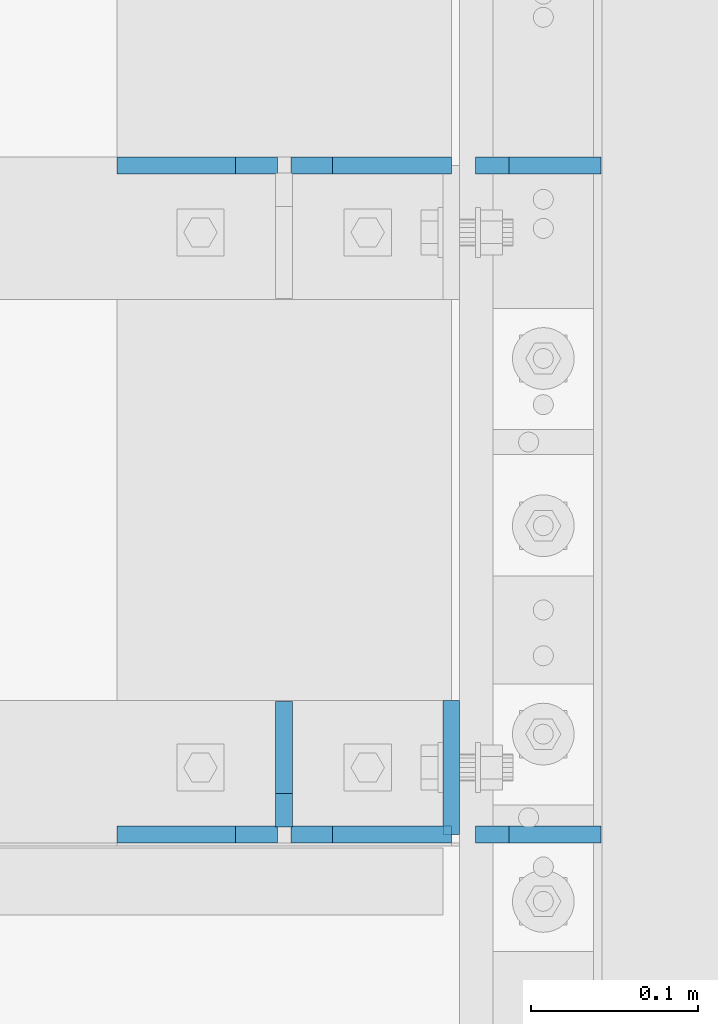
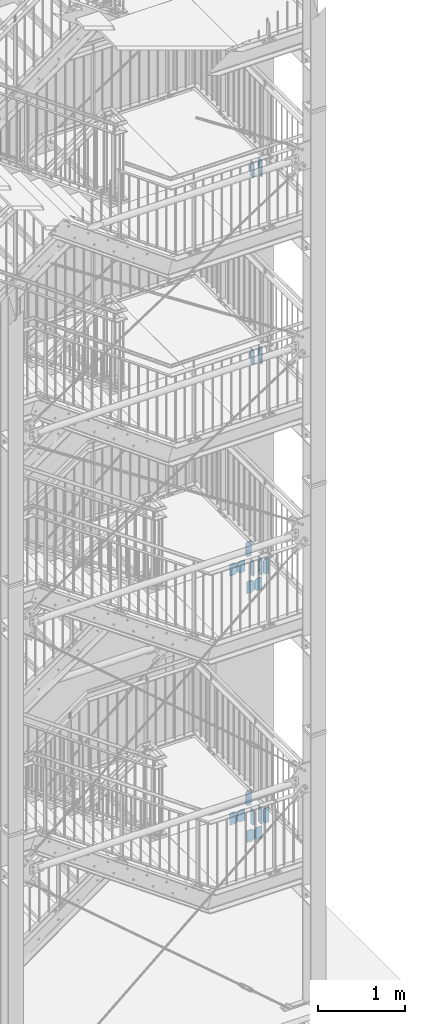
# One storey, part 202 of 825: 20 plates, 48 openings.
"""IFC2X3 building model written with IfcOpenShell, lengths in millimetres."""

from ifc_helpers import new_model, entity, si_unit, converted_unit, frame, frame_2d, origin, origin_with_axes, origin_2d_with_axis, place, context, project, spatial, polyline, circle, outline, extrude, material, layer, layer_set, element, save


model = new_model("IFC2X3")

# Units and contexts
model_context = context("Model", 3, precision=1e-09, world=origin_with_axes())
ifc_project = project(units=[si_unit("LENGTHUNIT", "METRE", prefix="MILLI"), si_unit("AREAUNIT", "SQUARE_METRE"), si_unit("VOLUMEUNIT", "CUBIC_METRE"), converted_unit("PLANEANGLEUNIT", "DEGREE", entity("IfcPlaneAngleMeasure", 0.01745329), si_unit("PLANEANGLEUNIT", "RADIAN"), dimensions=[0, 0, 0, 0, 0, 0, 0])], contexts=[model_context])

# Site, building, storey
site_placement = place(None, origin_with_axes())
site = spatial("IfcSite", under=ifc_project, at=site_placement, Name="Cnopf'sche Kinderklinik", CompositionType="ELEMENT")
building_placement = place(site_placement, origin_with_axes())
building = spatial("IfcBuilding", under=site, at=building_placement, Name="Struktur 1", CompositionType="ELEMENT")
storey_placement = place(building_placement, origin_with_axes())
storey = spatial("IfcBuildingStorey", under=building, at=storey_placement, Name="Default Storey", CompositionType="ELEMENT", Elevation=0.0)

# Plate, openings
ifc_material = material(Name="S235JR")
ifc_layer = layer(ifc_material, 10.0)
ifc_layer_set = layer_set([ifc_layer], Name="S235JR")
plate_1_placement = place(None, frame((8862.713402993, 5736.736971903, 5256.3947367), z_axis=(0.0, 1.0, 0.0), x_axis=(-1.0, 0.0, 0.0)))
plate_1 = element("IfcPlate", 1, at=plate_1_placement, inside=storey, material=ifc_layer_set, Name="Stiffener#1", ObjectType="Stiffener#1", context=model_context, shape_type="SweptSolid", body=[
    extrude(outline(polyline([(0.0, 0.0), (96.0, 0.0), (96.0, 167.0), (0.0, 167.0), (0.0, 0.0)])), origin_with_axes(), (0.0, 0.0, 1.0), 10.0),
])
opening_1_placement = place(plate_1_placement, frame((0.0, 0.0, -0.01), z_axis=(0.0, 0.0, 1.0), x_axis=(1.0, 0.0, 0.0)))
element("IfcOpeningElement", 2, at=opening_1_placement, cuts=plate_1, ObjectType="Opening", context=model_context, shape_type="SweptSolid", body=[
    extrude(outline(polyline([(0.0, 167.0), (0.0, 142.0), (25.0, 167.0), (0.0, 167.0)])), origin(), (0.0, 0.0, 1.0), 10.02),
])
opening_2_placement = place(plate_1_placement, frame((0.0, 0.0, -0.01), z_axis=(0.0, 0.0, 1.0), x_axis=(1.0, 0.0, 0.0)))
element("IfcOpeningElement", 3, at=opening_2_placement, cuts=plate_1, ObjectType="Opening", context=model_context, shape_type="SweptSolid", body=[
    extrude(outline(polyline([(0.0, 0.0), (25.0, 0.0), (0.0, 25.0), (0.0, 0.0)])), origin(), (0.0, 0.0, 1.0), 10.02),
])

plate_2_placement = place(None, frame((8966.713402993, 5736.736971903, 5256.3947367), z_axis=(0.0, 1.0, 0.0), x_axis=(-1.0, 0.0, 0.0)))
plate_2 = element("IfcPlate", 4, at=plate_2_placement, inside=storey, material=ifc_layer_set, Name="Stiffener#0", ObjectType="Stiffener#0", context=model_context, shape_type="SweptSolid", body=[
    extrude(outline(polyline([(0.0, 0.0), (96.0, 0.0), (96.0, 167.0), (0.0, 167.0), (0.0, 0.0)])), origin_with_axes(), (0.0, 0.0, 1.0), 10.0),
])
opening_3_placement = place(plate_2_placement, frame((0.0, 0.0, -0.01), z_axis=(0.0, 0.0, 1.0), x_axis=(1.0, 0.0, 0.0)))
element("IfcOpeningElement", 5, at=opening_3_placement, cuts=plate_2, ObjectType="Opening", context=model_context, shape_type="SweptSolid", body=[
    extrude(outline(polyline([(96.0, 167.0), (71.0, 167.0), (96.0, 142.0), (96.0, 167.0)])), origin(), (0.0, 0.0, 1.0), 10.02),
])
opening_4_placement = place(plate_2_placement, frame((0.0, 0.0, -0.01), z_axis=(0.0, 0.0, 1.0), x_axis=(1.0, 0.0, 0.0)))
element("IfcOpeningElement", 6, at=opening_4_placement, cuts=plate_2, ObjectType="Opening", context=model_context, shape_type="SweptSolid", body=[
    extrude(outline(polyline([(96.0, 0.0), (96.0, 25.0), (71.0, 0.0), (96.0, 0.0)])), origin(), (0.0, 0.0, 1.0), 10.02),
])

plate_3_placement = place(None, frame((8981.213402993, 5736.736971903, 5657.749898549), z_axis=(0.0, 1.0, 0.0), x_axis=(0.996815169, 0.0, 0.079746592)))
plate_3 = element("IfcPlate", 7, at=plate_3_placement, inside=storey, material=ifc_layer_set, Name="Stiffener#1", ObjectType="Stiffener#1", context=model_context, shape_type="SweptSolid", body=[
    extrude(outline(polyline([(0.0, 0.0), (75.239625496, 0.0), (57.877952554, 217.017159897), (-16.404697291, 205.05517107), (0.0, 0.0)])), origin_with_axes(), (0.0, 0.0, 1.0), 10.0),
])
opening_5_placement = place(plate_3_placement, frame((0.0, 0.0, -0.01), z_axis=(0.0, 0.0, 1.0), x_axis=(1.0, 0.0, 0.0)))
element("IfcOpeningElement", 8, at=opening_5_placement, cuts=plate_3, ObjectType="Opening", context=model_context, shape_type="SweptSolid", body=[
    extrude(outline(polyline([(-16.404697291, 205.05517107), (-14.809765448, 185.118867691), (3.34092195, 208.23487558), (-16.404697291, 205.05517107)])), origin(), (0.0, 0.0, 1.0), 10.02),
])
opening_6_placement = place(plate_3_placement, frame((0.0, 0.0, -0.01), z_axis=(0.0, 0.0, 1.0), x_axis=(1.0, 0.0, 0.0)))
element("IfcOpeningElement", 9, at=opening_6_placement, cuts=plate_3, ObjectType="Opening", context=model_context, shape_type="SweptSolid", body=[
    extrude(outline(polyline([(0.0, 0.0), (20.0, 0.0), (-1.594931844, 19.936303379), (0.0, 0.0)])), origin(), (0.0, 0.0, 1.0), 10.02),
])

plate_4_placement = place(None, frame((8981.213402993, 6136.736971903, 5657.749898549), z_axis=(0.0, 1.0, 0.0), x_axis=(0.996815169, 0.0, 0.079746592)))
plate_4 = element("IfcPlate", 10, at=plate_4_placement, inside=storey, material=ifc_layer_set, Name="Stiffener#1", ObjectType="Stiffener#1", context=model_context, shape_type="SweptSolid", body=[
    extrude(outline(polyline([(0.0, 0.0), (75.239625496, 0.0), (57.877952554, 217.017159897), (-16.404697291, 205.05517107), (0.0, 0.0)])), origin_with_axes(), (0.0, 0.0, 1.0), 10.0),
])
opening_7_placement = place(plate_4_placement, frame((0.0, 0.0, -0.01), z_axis=(0.0, 0.0, 1.0), x_axis=(1.0, 0.0, 0.0)))
element("IfcOpeningElement", 11, at=opening_7_placement, cuts=plate_4, ObjectType="Opening", context=model_context, shape_type="SweptSolid", body=[
    extrude(outline(polyline([(-16.404697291, 205.05517107), (-14.809765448, 185.118867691), (3.34092195, 208.23487558), (-16.404697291, 205.05517107)])), origin(), (0.0, 0.0, 1.0), 10.02),
])
opening_8_placement = place(plate_4_placement, frame((0.0, 0.0, -0.01), z_axis=(0.0, 0.0, 1.0), x_axis=(1.0, 0.0, 0.0)))
element("IfcOpeningElement", 12, at=opening_8_placement, cuts=plate_4, ObjectType="Opening", context=model_context, shape_type="SweptSolid", body=[
    extrude(outline(polyline([(0.0, 0.0), (20.0, 0.0), (-1.594931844, 19.936303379), (0.0, 0.0)])), origin(), (0.0, 0.0, 1.0), 10.02),
])

plate_5_placement = place(None, frame((8862.713402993, 6136.736971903, 5256.3947367), z_axis=(0.0, 1.0, 0.0), x_axis=(-1.0, 0.0, 0.0)))
plate_5 = element("IfcPlate", 13, at=plate_5_placement, inside=storey, material=ifc_layer_set, Name="Stiffener#1", ObjectType="Stiffener#1", context=model_context, shape_type="SweptSolid", body=[
    extrude(outline(polyline([(0.0, 0.0), (96.0, 0.0), (96.0, 167.0), (0.0, 167.0), (0.0, 0.0)])), origin_with_axes(), (0.0, 0.0, 1.0), 10.0),
])
opening_9_placement = place(plate_5_placement, frame((0.0, 0.0, -0.01), z_axis=(0.0, 0.0, 1.0), x_axis=(1.0, 0.0, 0.0)))
element("IfcOpeningElement", 14, at=opening_9_placement, cuts=plate_5, ObjectType="Opening", context=model_context, shape_type="SweptSolid", body=[
    extrude(outline(polyline([(0.0, 167.0), (0.0, 142.0), (25.0, 167.0), (0.0, 167.0)])), origin(), (0.0, 0.0, 1.0), 10.02),
])
opening_10_placement = place(plate_5_placement, frame((0.0, 0.0, -0.01), z_axis=(0.0, 0.0, 1.0), x_axis=(1.0, 0.0, 0.0)))
element("IfcOpeningElement", 15, at=opening_10_placement, cuts=plate_5, ObjectType="Opening", context=model_context, shape_type="SweptSolid", body=[
    extrude(outline(polyline([(0.0, 0.0), (25.0, 0.0), (0.0, 25.0), (0.0, 0.0)])), origin(), (0.0, 0.0, 1.0), 10.02),
])

plate_6_placement = place(None, frame((8966.713402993, 6136.736971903, 5256.3947367), z_axis=(0.0, 1.0, 0.0), x_axis=(-1.0, 0.0, 0.0)))
plate_6 = element("IfcPlate", 16, at=plate_6_placement, inside=storey, material=ifc_layer_set, Name="Stiffener#0", ObjectType="Stiffener#0", context=model_context, shape_type="SweptSolid", body=[
    extrude(outline(polyline([(0.0, 0.0), (96.0, 0.0), (96.0, 167.0), (0.0, 167.0), (0.0, 0.0)])), origin_with_axes(), (0.0, 0.0, 1.0), 10.0),
])
opening_11_placement = place(plate_6_placement, frame((0.0, 0.0, -0.01), z_axis=(0.0, 0.0, 1.0), x_axis=(1.0, 0.0, 0.0)))
element("IfcOpeningElement", 17, at=opening_11_placement, cuts=plate_6, ObjectType="Opening", context=model_context, shape_type="SweptSolid", body=[
    extrude(outline(polyline([(96.0, 167.0), (71.0, 167.0), (96.0, 142.0), (96.0, 167.0)])), origin(), (0.0, 0.0, 1.0), 10.02),
])
opening_12_placement = place(plate_6_placement, frame((0.0, 0.0, -0.01), z_axis=(0.0, 0.0, 1.0), x_axis=(1.0, 0.0, 0.0)))
element("IfcOpeningElement", 18, at=opening_12_placement, cuts=plate_6, ObjectType="Opening", context=model_context, shape_type="SweptSolid", body=[
    extrude(outline(polyline([(96.0, 0.0), (96.0, 25.0), (71.0, 0.0), (96.0, 0.0)])), origin(), (0.0, 0.0, 1.0), 10.02),
])

plate_7_placement = place(None, frame((8981.213402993, 5736.736971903, 2163.907793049), z_axis=(0.0, 1.0, 0.0), x_axis=(0.996815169, 0.0, 0.079746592)))
plate_7 = element("IfcPlate", 19, at=plate_7_placement, inside=storey, material=ifc_layer_set, Name="Stiffener#1", ObjectType="Stiffener#1", context=model_context, shape_type="SweptSolid", body=[
    extrude(outline(polyline([(0.0, 0.0), (75.239625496, 0.0), (57.877952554, 217.017159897), (-16.404697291, 205.05517107), (0.0, 0.0)])), origin_with_axes(), (0.0, 0.0, 1.0), 10.0),
])
opening_13_placement = place(plate_7_placement, frame((0.0, 0.0, -0.01), z_axis=(0.0, 0.0, 1.0), x_axis=(1.0, 0.0, 0.0)))
element("IfcOpeningElement", 20, at=opening_13_placement, cuts=plate_7, ObjectType="Opening", context=model_context, shape_type="SweptSolid", body=[
    extrude(outline(polyline([(-16.404697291, 205.05517107), (-14.809765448, 185.118867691), (3.34092195, 208.23487558), (-16.404697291, 205.05517107)])), origin(), (0.0, 0.0, 1.0), 10.02),
])
opening_14_placement = place(plate_7_placement, frame((0.0, 0.0, -0.01), z_axis=(0.0, 0.0, 1.0), x_axis=(1.0, 0.0, 0.0)))
element("IfcOpeningElement", 21, at=opening_14_placement, cuts=plate_7, ObjectType="Opening", context=model_context, shape_type="SweptSolid", body=[
    extrude(outline(polyline([(0.0, 0.0), (20.0, 0.0), (-1.594931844, 19.936303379), (0.0, 0.0)])), origin(), (0.0, 0.0, 1.0), 10.02),
])

plate_8_placement = place(None, frame((8862.713402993, 5736.736971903, 1762.5526312), z_axis=(0.0, 1.0, 0.0), x_axis=(-1.0, 0.0, 0.0)))
plate_8 = element("IfcPlate", 22, at=plate_8_placement, inside=storey, material=ifc_layer_set, Name="Stiffener#1", ObjectType="Stiffener#1", context=model_context, shape_type="SweptSolid", body=[
    extrude(outline(polyline([(0.0, 0.0), (96.0, 0.0), (96.0, 167.0), (0.0, 167.0), (0.0, 0.0)])), origin_with_axes(), (0.0, 0.0, 1.0), 10.0),
])
opening_15_placement = place(plate_8_placement, frame((0.0, 0.0, -0.01), z_axis=(0.0, 0.0, 1.0), x_axis=(1.0, 0.0, 0.0)))
element("IfcOpeningElement", 23, at=opening_15_placement, cuts=plate_8, ObjectType="Opening", context=model_context, shape_type="SweptSolid", body=[
    extrude(outline(polyline([(0.0, 167.0), (0.0, 142.0), (25.0, 167.0), (0.0, 167.0)])), origin(), (0.0, 0.0, 1.0), 10.02),
])
opening_16_placement = place(plate_8_placement, frame((0.0, 0.0, -0.01), z_axis=(0.0, 0.0, 1.0), x_axis=(1.0, 0.0, 0.0)))
element("IfcOpeningElement", 24, at=opening_16_placement, cuts=plate_8, ObjectType="Opening", context=model_context, shape_type="SweptSolid", body=[
    extrude(outline(polyline([(0.0, 0.0), (25.0, 0.0), (0.0, 25.0), (0.0, 0.0)])), origin(), (0.0, 0.0, 1.0), 10.02),
])

plate_9_placement = place(None, frame((8966.713402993, 5736.736971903, 1762.5526312), z_axis=(0.0, 1.0, 0.0), x_axis=(-1.0, 0.0, 0.0)))
plate_9 = element("IfcPlate", 25, at=plate_9_placement, inside=storey, material=ifc_layer_set, Name="Stiffener#0", ObjectType="Stiffener#0", context=model_context, shape_type="SweptSolid", body=[
    extrude(outline(polyline([(0.0, 0.0), (96.0, 0.0), (96.0, 167.0), (0.0, 167.0), (0.0, 0.0)])), origin_with_axes(), (0.0, 0.0, 1.0), 10.0),
])
opening_17_placement = place(plate_9_placement, frame((0.0, 0.0, -0.01), z_axis=(0.0, 0.0, 1.0), x_axis=(1.0, 0.0, 0.0)))
element("IfcOpeningElement", 26, at=opening_17_placement, cuts=plate_9, ObjectType="Opening", context=model_context, shape_type="SweptSolid", body=[
    extrude(outline(polyline([(96.0, 167.0), (71.0, 167.0), (96.0, 142.0), (96.0, 167.0)])), origin(), (0.0, 0.0, 1.0), 10.02),
])
opening_18_placement = place(plate_9_placement, frame((0.0, 0.0, -0.01), z_axis=(0.0, 0.0, 1.0), x_axis=(1.0, 0.0, 0.0)))
element("IfcOpeningElement", 27, at=opening_18_placement, cuts=plate_9, ObjectType="Opening", context=model_context, shape_type="SweptSolid", body=[
    extrude(outline(polyline([(96.0, 0.0), (96.0, 25.0), (71.0, 0.0), (96.0, 0.0)])), origin(), (0.0, 0.0, 1.0), 10.02),
])

plate_10_placement = place(None, frame((8981.213402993, 6136.736971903, 2163.907793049), z_axis=(0.0, 1.0, 0.0), x_axis=(0.996815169, 0.0, 0.079746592)))
plate_10 = element("IfcPlate", 28, at=plate_10_placement, inside=storey, material=ifc_layer_set, Name="Stiffener#1", ObjectType="Stiffener#1", context=model_context, shape_type="SweptSolid", body=[
    extrude(outline(polyline([(0.0, 0.0), (75.239625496, 0.0), (57.877952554, 217.017159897), (-16.404697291, 205.05517107), (0.0, 0.0)])), origin_with_axes(), (0.0, 0.0, 1.0), 10.0),
])
opening_19_placement = place(plate_10_placement, frame((0.0, 0.0, -0.01), z_axis=(0.0, 0.0, 1.0), x_axis=(1.0, 0.0, 0.0)))
element("IfcOpeningElement", 29, at=opening_19_placement, cuts=plate_10, ObjectType="Opening", context=model_context, shape_type="SweptSolid", body=[
    extrude(outline(polyline([(-16.404697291, 205.05517107), (-14.809765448, 185.118867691), (3.34092195, 208.23487558), (-16.404697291, 205.05517107)])), origin(), (0.0, 0.0, 1.0), 10.02),
])
opening_20_placement = place(plate_10_placement, frame((0.0, 0.0, -0.01), z_axis=(0.0, 0.0, 1.0), x_axis=(1.0, 0.0, 0.0)))
element("IfcOpeningElement", 30, at=opening_20_placement, cuts=plate_10, ObjectType="Opening", context=model_context, shape_type="SweptSolid", body=[
    extrude(outline(polyline([(0.0, 0.0), (20.0, 0.0), (-1.594931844, 19.936303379), (0.0, 0.0)])), origin(), (0.0, 0.0, 1.0), 10.02),
])

plate_11_placement = place(None, frame((8862.713402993, 6136.736971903, 1762.5526312), z_axis=(0.0, 1.0, 0.0), x_axis=(-1.0, 0.0, 0.0)))
plate_11 = element("IfcPlate", 31, at=plate_11_placement, inside=storey, material=ifc_layer_set, Name="Stiffener#1", ObjectType="Stiffener#1", context=model_context, shape_type="SweptSolid", body=[
    extrude(outline(polyline([(0.0, 0.0), (96.0, 0.0), (96.0, 167.0), (0.0, 167.0), (0.0, 0.0)])), origin_with_axes(), (0.0, 0.0, 1.0), 10.0),
])
opening_21_placement = place(plate_11_placement, frame((0.0, 0.0, -0.01), z_axis=(0.0, 0.0, 1.0), x_axis=(1.0, 0.0, 0.0)))
element("IfcOpeningElement", 32, at=opening_21_placement, cuts=plate_11, ObjectType="Opening", context=model_context, shape_type="SweptSolid", body=[
    extrude(outline(polyline([(0.0, 167.0), (0.0, 142.0), (25.0, 167.0), (0.0, 167.0)])), origin(), (0.0, 0.0, 1.0), 10.02),
])
opening_22_placement = place(plate_11_placement, frame((0.0, 0.0, -0.01), z_axis=(0.0, 0.0, 1.0), x_axis=(1.0, 0.0, 0.0)))
element("IfcOpeningElement", 33, at=opening_22_placement, cuts=plate_11, ObjectType="Opening", context=model_context, shape_type="SweptSolid", body=[
    extrude(outline(polyline([(0.0, 0.0), (25.0, 0.0), (0.0, 25.0), (0.0, 0.0)])), origin(), (0.0, 0.0, 1.0), 10.02),
])

plate_12_placement = place(None, frame((8966.713402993, 6136.736971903, 1762.5526312), z_axis=(0.0, 1.0, 0.0), x_axis=(-1.0, 0.0, 0.0)))
plate_12 = element("IfcPlate", 34, at=plate_12_placement, inside=storey, material=ifc_layer_set, Name="Stiffener#0", ObjectType="Stiffener#0", context=model_context, shape_type="SweptSolid", body=[
    extrude(outline(polyline([(0.0, 0.0), (96.0, 0.0), (96.0, 167.0), (0.0, 167.0), (0.0, 0.0)])), origin_with_axes(), (0.0, 0.0, 1.0), 10.0),
])
opening_23_placement = place(plate_12_placement, frame((0.0, 0.0, -0.01), z_axis=(0.0, 0.0, 1.0), x_axis=(1.0, 0.0, 0.0)))
element("IfcOpeningElement", 35, at=opening_23_placement, cuts=plate_12, ObjectType="Opening", context=model_context, shape_type="SweptSolid", body=[
    extrude(outline(polyline([(96.0, 167.0), (71.0, 167.0), (96.0, 142.0), (96.0, 167.0)])), origin(), (0.0, 0.0, 1.0), 10.02),
])
opening_24_placement = place(plate_12_placement, frame((0.0, 0.0, -0.01), z_axis=(0.0, 0.0, 1.0), x_axis=(1.0, 0.0, 0.0)))
element("IfcOpeningElement", 36, at=opening_24_placement, cuts=plate_12, ObjectType="Opening", context=model_context, shape_type="SweptSolid", body=[
    extrude(outline(polyline([(96.0, 0.0), (96.0, 25.0), (71.0, 0.0), (96.0, 0.0)])), origin(), (0.0, 0.0, 1.0), 10.02),
])

plate_13_placement = place(None, frame((8861.713402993, 5821.236971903, 2169.907896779), z_axis=(1.0, 0.0, 0.0), x_axis=(0.0, -0.996815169, -0.079746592)))
plate_13 = element("IfcPlate", 37, at=plate_13_placement, inside=storey, material=ifc_layer_set, Name="Stiffener#1", ObjectType="Stiffener#1", context=model_context, shape_type="SweptSolid", body=[
    extrude(outline(polyline([(0.0, 0.0), (75.239625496, 0.0), (91.644322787, 205.05517107), (17.361672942, 217.017159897), (0.0, 0.0)])), origin_with_axes(), (0.0, 0.0, 1.0), 10.0),
])
opening_25_placement = place(plate_13_placement, frame((0.0, 0.0, -0.01), z_axis=(0.0, 0.0, 1.0), x_axis=(1.0, 0.0, 0.0)))
element("IfcOpeningElement", 38, at=opening_25_placement, cuts=plate_13, ObjectType="Opening", context=model_context, shape_type="SweptSolid", body=[
    extrude(outline(polyline([(91.644322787, 205.05517107), (71.898703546, 208.23487558), (90.049390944, 185.118867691), (91.644322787, 205.05517107)])), origin(), (0.0, 0.0, 1.0), 10.02),
])
opening_26_placement = place(plate_13_placement, frame((0.0, 0.0, -0.01), z_axis=(0.0, 0.0, 1.0), x_axis=(1.0, 0.0, 0.0)))
element("IfcOpeningElement", 39, at=opening_26_placement, cuts=plate_13, ObjectType="Opening", context=model_context, shape_type="SweptSolid", body=[
    extrude(outline(polyline([(75.239625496, 0.0), (76.83455734, 19.936303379), (55.239625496, 0.0), (75.239625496, 0.0)])), origin(), (0.0, 0.0, 1.0), 10.02),
])

plate_14_placement = place(None, frame((8971.713402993, 5741.736971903, 2176.0526312), z_axis=(-1.0, 0.0, 0.0), x_axis=(0.0, 1.0, 0.0)))
plate_14 = element("IfcPlate", 40, at=plate_14_placement, inside=storey, material=ifc_layer_set, Name="Endplate", ObjectType="Endplate", context=model_context, shape_type="SweptSolid", body=[
    extrude(outline(polyline([(0.0, 0.0), (80.0, 0.0), (80.0, 230.0), (0.0, 230.0), (0.0, 0.0)])), origin_with_axes(), (0.0, 0.0, 1.0), 10.0),
])
opening_27_placement = place(plate_14_placement, frame((17.5, 209.0, -0.5), z_axis=(0.0, 0.0, 1.0), x_axis=(0.0, -1.0, 0.0)))
element("IfcOpeningElement", 41, at=opening_27_placement, cuts=plate_14, ObjectType="Opening", context=model_context, shape_type="SweptSolid", body=[
    extrude(circle(Radius=6.001, at=origin_2d_with_axis()), origin(), (0.0, 0.0, 1.0), 11.0),
])
opening_28_placement = place(plate_14_placement, frame((17.5, 21.0, -0.5), z_axis=(0.0, 0.0, 1.0), x_axis=(0.0, -1.0, 0.0)))
element("IfcOpeningElement", 42, at=opening_28_placement, cuts=plate_14, ObjectType="Opening", context=model_context, shape_type="SweptSolid", body=[
    extrude(circle(Radius=6.001, at=origin_2d_with_axis()), origin(), (0.0, 0.0, 1.0), 11.0),
])
opening_29_placement = place(plate_14_placement, frame((40.0, 115.0, -0.5), z_axis=(0.0, 0.0, 1.0), x_axis=(0.0, -1.0, 0.0)))
element("IfcOpeningElement", 43, at=opening_29_placement, cuts=plate_14, ObjectType="Opening", context=model_context, shape_type="SweptSolid", body=[
    extrude(circle(Radius=9.001, at=frame_2d((60.0, 0.0), x_axis=(1.0, 0.0))), origin(), (0.0, 0.0, 1.0), 11.0),
])
opening_30_placement = place(plate_14_placement, frame((40.0, 115.0, -0.5), z_axis=(0.0, 0.0, 1.0), x_axis=(0.0, -1.0, 0.0)))
element("IfcOpeningElement", 44, at=opening_30_placement, cuts=plate_14, ObjectType="Opening", context=model_context, shape_type="SweptSolid", body=[
    extrude(circle(Radius=9.001, at=frame_2d((-60.0, 0.0), x_axis=(1.0, 0.0))), origin(), (0.0, 0.0, 1.0), 11.0),
])

plate_15_placement = place(None, frame((8861.713402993, 5821.236971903, 5663.750002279), z_axis=(1.0, 0.0, 0.0), x_axis=(0.0, -0.996815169, -0.079746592)))
plate_15 = element("IfcPlate", 45, at=plate_15_placement, inside=storey, material=ifc_layer_set, Name="Stiffener#1", ObjectType="Stiffener#1", context=model_context, shape_type="SweptSolid", body=[
    extrude(outline(polyline([(0.0, 0.0), (75.239625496, 0.0), (91.644322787, 205.05517107), (17.361672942, 217.017159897), (0.0, 0.0)])), origin_with_axes(), (0.0, 0.0, 1.0), 10.0),
])
opening_31_placement = place(plate_15_placement, frame((0.0, 0.0, -0.01), z_axis=(0.0, 0.0, 1.0), x_axis=(1.0, 0.0, 0.0)))
element("IfcOpeningElement", 46, at=opening_31_placement, cuts=plate_15, ObjectType="Opening", context=model_context, shape_type="SweptSolid", body=[
    extrude(outline(polyline([(91.644322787, 205.05517107), (71.898703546, 208.23487558), (90.049390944, 185.118867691), (91.644322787, 205.05517107)])), origin(), (0.0, 0.0, 1.0), 10.02),
])
opening_32_placement = place(plate_15_placement, frame((0.0, 0.0, -0.01), z_axis=(0.0, 0.0, 1.0), x_axis=(1.0, 0.0, 0.0)))
element("IfcOpeningElement", 47, at=opening_32_placement, cuts=plate_15, ObjectType="Opening", context=model_context, shape_type="SweptSolid", body=[
    extrude(outline(polyline([(75.239625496, 0.0), (76.83455734, 19.936303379), (55.239625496, 0.0), (75.239625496, 0.0)])), origin(), (0.0, 0.0, 1.0), 10.02),
])

plate_16_placement = place(None, frame((8971.713402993, 5741.736971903, 5669.8947367), z_axis=(-1.0, 0.0, 0.0), x_axis=(0.0, 1.0, 0.0)))
plate_16 = element("IfcPlate", 48, at=plate_16_placement, inside=storey, material=ifc_layer_set, Name="Endplate", ObjectType="Endplate", context=model_context, shape_type="SweptSolid", body=[
    extrude(outline(polyline([(0.0, 0.0), (80.0, 0.0), (80.0, 230.0), (0.0, 230.0), (0.0, 0.0)])), origin_with_axes(), (0.0, 0.0, 1.0), 10.0),
])
opening_33_placement = place(plate_16_placement, frame((17.5, 209.0, -0.5), z_axis=(0.0, 0.0, 1.0), x_axis=(0.0, -1.0, 0.0)))
element("IfcOpeningElement", 49, at=opening_33_placement, cuts=plate_16, ObjectType="Opening", context=model_context, shape_type="SweptSolid", body=[
    extrude(circle(Radius=6.001, at=origin_2d_with_axis()), origin(), (0.0, 0.0, 1.0), 11.0),
])
opening_34_placement = place(plate_16_placement, frame((17.5, 21.0, -0.5), z_axis=(0.0, 0.0, 1.0), x_axis=(0.0, -1.0, 0.0)))
element("IfcOpeningElement", 50, at=opening_34_placement, cuts=plate_16, ObjectType="Opening", context=model_context, shape_type="SweptSolid", body=[
    extrude(circle(Radius=6.001, at=origin_2d_with_axis()), origin(), (0.0, 0.0, 1.0), 11.0),
])
opening_35_placement = place(plate_16_placement, frame((40.0, 115.0, -0.5), z_axis=(0.0, 0.0, 1.0), x_axis=(0.0, -1.0, 0.0)))
element("IfcOpeningElement", 51, at=opening_35_placement, cuts=plate_16, ObjectType="Opening", context=model_context, shape_type="SweptSolid", body=[
    extrude(circle(Radius=9.001, at=frame_2d((60.0, 0.0), x_axis=(1.0, 0.0))), origin(), (0.0, 0.0, 1.0), 11.0),
])
opening_36_placement = place(plate_16_placement, frame((40.0, 115.0, -0.5), z_axis=(0.0, 0.0, 1.0), x_axis=(0.0, -1.0, 0.0)))
element("IfcOpeningElement", 52, at=opening_36_placement, cuts=plate_16, ObjectType="Opening", context=model_context, shape_type="SweptSolid", body=[
    extrude(circle(Radius=9.001, at=frame_2d((-60.0, 0.0), x_axis=(1.0, 0.0))), origin(), (0.0, 0.0, 1.0), 11.0),
])

plate_17_placement = place(None, frame((8861.713402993, 5821.236971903, 8624.855265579), z_axis=(1.0, 0.0, 0.0), x_axis=(0.0, -0.996815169, -0.079746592)))
plate_17 = element("IfcPlate", 53, at=plate_17_placement, inside=storey, material=ifc_layer_set, Name="Stiffener#1", ObjectType="Stiffener#1", context=model_context, shape_type="SweptSolid", body=[
    extrude(outline(polyline([(0.0, 0.0), (75.239625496, 0.0), (91.644322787, 205.05517107), (17.361672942, 217.017159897), (0.0, 0.0)])), origin_with_axes(), (0.0, 0.0, 1.0), 10.0),
])
opening_37_placement = place(plate_17_placement, frame((0.0, 0.0, -0.01), z_axis=(0.0, 0.0, 1.0), x_axis=(1.0, 0.0, 0.0)))
element("IfcOpeningElement", 54, at=opening_37_placement, cuts=plate_17, ObjectType="Opening", context=model_context, shape_type="SweptSolid", body=[
    extrude(outline(polyline([(91.644322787, 205.05517107), (71.898703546, 208.23487558), (90.049390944, 185.118867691), (91.644322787, 205.05517107)])), origin(), (0.0, 0.0, 1.0), 10.02),
])
opening_38_placement = place(plate_17_placement, frame((0.0, 0.0, -0.01), z_axis=(0.0, 0.0, 1.0), x_axis=(1.0, 0.0, 0.0)))
element("IfcOpeningElement", 55, at=opening_38_placement, cuts=plate_17, ObjectType="Opening", context=model_context, shape_type="SweptSolid", body=[
    extrude(outline(polyline([(75.239625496, 0.0), (76.83455734, 19.936303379), (55.239625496, 0.0), (75.239625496, 0.0)])), origin(), (0.0, 0.0, 1.0), 10.02),
])

plate_18_placement = place(None, frame((8971.713402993, 5741.736971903, 8631.0), z_axis=(-1.0, 0.0, 0.0), x_axis=(0.0, 1.0, 0.0)))
plate_18 = element("IfcPlate", 56, at=plate_18_placement, inside=storey, material=ifc_layer_set, Name="Endplate", ObjectType="Endplate", context=model_context, shape_type="SweptSolid", body=[
    extrude(outline(polyline([(0.0, 0.0), (80.0, 0.0), (80.0, 230.0), (0.0, 230.0), (0.0, 0.0)])), origin_with_axes(), (0.0, 0.0, 1.0), 10.0),
])
opening_39_placement = place(plate_18_placement, frame((17.5, 209.0, -0.5), z_axis=(0.0, 0.0, 1.0), x_axis=(0.0, -1.0, 0.0)))
element("IfcOpeningElement", 57, at=opening_39_placement, cuts=plate_18, ObjectType="Opening", context=model_context, shape_type="SweptSolid", body=[
    extrude(circle(Radius=6.001, at=origin_2d_with_axis()), origin(), (0.0, 0.0, 1.0), 11.0),
])
opening_40_placement = place(plate_18_placement, frame((17.5, 21.0, -0.5), z_axis=(0.0, 0.0, 1.0), x_axis=(0.0, -1.0, 0.0)))
element("IfcOpeningElement", 58, at=opening_40_placement, cuts=plate_18, ObjectType="Opening", context=model_context, shape_type="SweptSolid", body=[
    extrude(circle(Radius=6.001, at=origin_2d_with_axis()), origin(), (0.0, 0.0, 1.0), 11.0),
])
opening_41_placement = place(plate_18_placement, frame((40.0, 115.0, -0.5), z_axis=(0.0, 0.0, 1.0), x_axis=(0.0, -1.0, 0.0)))
element("IfcOpeningElement", 59, at=opening_41_placement, cuts=plate_18, ObjectType="Opening", context=model_context, shape_type="SweptSolid", body=[
    extrude(circle(Radius=9.001, at=frame_2d((60.0, 0.0), x_axis=(1.0, 0.0))), origin(), (0.0, 0.0, 1.0), 11.0),
])
opening_42_placement = place(plate_18_placement, frame((40.0, 115.0, -0.5), z_axis=(0.0, 0.0, 1.0), x_axis=(0.0, -1.0, 0.0)))
element("IfcOpeningElement", 60, at=opening_42_placement, cuts=plate_18, ObjectType="Opening", context=model_context, shape_type="SweptSolid", body=[
    extrude(circle(Radius=9.001, at=frame_2d((-60.0, 0.0), x_axis=(1.0, 0.0))), origin(), (0.0, 0.0, 1.0), 11.0),
])

plate_19_placement = place(None, frame((8971.713402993, 5741.736971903, 11260.5000003), z_axis=(-1.0, 0.0, 0.0), x_axis=(0.0, 1.0, 0.0)))
plate_19 = element("IfcPlate", 61, at=plate_19_placement, inside=storey, material=ifc_layer_set, Name="Endplate", ObjectType="Endplate", context=model_context, shape_type="SweptSolid", body=[
    extrude(outline(polyline([(0.0, 0.0), (80.0, 0.0), (80.0, 230.0), (0.0, 230.0), (0.0, 0.0)])), origin_with_axes(), (0.0, 0.0, 1.0), 10.0),
])
opening_43_placement = place(plate_19_placement, frame((17.5, 209.0, -0.5), z_axis=(0.0, 0.0, 1.0), x_axis=(0.0, -1.0, 0.0)))
element("IfcOpeningElement", 62, at=opening_43_placement, cuts=plate_19, ObjectType="Opening", context=model_context, shape_type="SweptSolid", body=[
    extrude(circle(Radius=6.001, at=origin_2d_with_axis()), origin(), (0.0, 0.0, 1.0), 11.0),
])
opening_44_placement = place(plate_19_placement, frame((17.5, 21.0, -0.5), z_axis=(0.0, 0.0, 1.0), x_axis=(0.0, -1.0, 0.0)))
element("IfcOpeningElement", 63, at=opening_44_placement, cuts=plate_19, ObjectType="Opening", context=model_context, shape_type="SweptSolid", body=[
    extrude(circle(Radius=6.001, at=origin_2d_with_axis()), origin(), (0.0, 0.0, 1.0), 11.0),
])
opening_45_placement = place(plate_19_placement, frame((40.0, 115.0, -0.5), z_axis=(0.0, 0.0, 1.0), x_axis=(0.0, -1.0, 0.0)))
element("IfcOpeningElement", 64, at=opening_45_placement, cuts=plate_19, ObjectType="Opening", context=model_context, shape_type="SweptSolid", body=[
    extrude(circle(Radius=9.001, at=frame_2d((60.0, 0.0), x_axis=(1.0, 0.0))), origin(), (0.0, 0.0, 1.0), 11.0),
])
opening_46_placement = place(plate_19_placement, frame((40.0, 115.0, -0.5), z_axis=(0.0, 0.0, 1.0), x_axis=(0.0, -1.0, 0.0)))
element("IfcOpeningElement", 65, at=opening_46_placement, cuts=plate_19, ObjectType="Opening", context=model_context, shape_type="SweptSolid", body=[
    extrude(circle(Radius=9.001, at=frame_2d((-60.0, 0.0), x_axis=(1.0, 0.0))), origin(), (0.0, 0.0, 1.0), 11.0),
])

plate_20_placement = place(None, frame((8861.713402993, 5821.236971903, 11254.355265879), z_axis=(1.0, 0.0, 0.0), x_axis=(0.0, -0.996815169, -0.079746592)))
plate_20 = element("IfcPlate", 66, at=plate_20_placement, inside=storey, material=ifc_layer_set, Name="Stiffener#1", ObjectType="Stiffener#1", context=model_context, shape_type="SweptSolid", body=[
    extrude(outline(polyline([(0.0, 0.0), (75.239625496, 0.0), (91.644322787, 205.05517107), (17.361672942, 217.017159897), (0.0, 0.0)])), origin_with_axes(), (0.0, 0.0, 1.0), 10.0),
])
opening_47_placement = place(plate_20_placement, frame((0.0, 0.0, -0.01), z_axis=(0.0, 0.0, 1.0), x_axis=(1.0, 0.0, 0.0)))
element("IfcOpeningElement", 67, at=opening_47_placement, cuts=plate_20, ObjectType="Opening", context=model_context, shape_type="SweptSolid", body=[
    extrude(outline(polyline([(91.644322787, 205.05517107), (71.898703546, 208.23487558), (90.049390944, 185.118867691), (91.644322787, 205.05517107)])), origin(), (0.0, 0.0, 1.0), 10.02),
])
opening_48_placement = place(plate_20_placement, frame((0.0, 0.0, -0.01), z_axis=(0.0, 0.0, 1.0), x_axis=(1.0, 0.0, 0.0)))
element("IfcOpeningElement", 68, at=opening_48_placement, cuts=plate_20, ObjectType="Opening", context=model_context, shape_type="SweptSolid", body=[
    extrude(outline(polyline([(75.239625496, 0.0), (76.83455734, 19.936303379), (55.239625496, 0.0), (75.239625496, 0.0)])), origin(), (0.0, 0.0, 1.0), 10.02),
])

save(model, "model.ifc")
